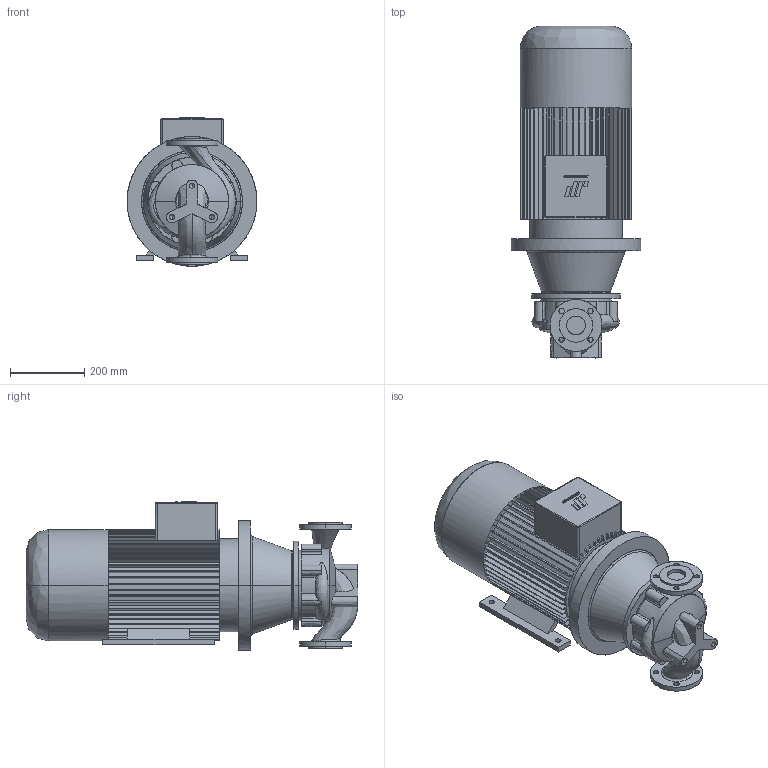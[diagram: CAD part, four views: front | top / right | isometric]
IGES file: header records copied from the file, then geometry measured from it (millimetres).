
Start section: CombiLine
Global section: file name: CLB_50-160_IEC160L.igs; native system:  By UGS Corp.; preprocessor: XPlus GENERIC/IGES 3.0; author: Stageplaats; organization: Johnson Pump Water B.V.; date: 20070713.130931; units: millimetre
Bounding box: 350 x 894.5 x 399.71 mm (x, y, z)
Surface area: 1664322.8 mm2 (no closed solid volume)
Topology: 0 solids, 0 shells, 580 faces, 3516 edges, 3510 vertices
Faces by surface type: bspline 580
